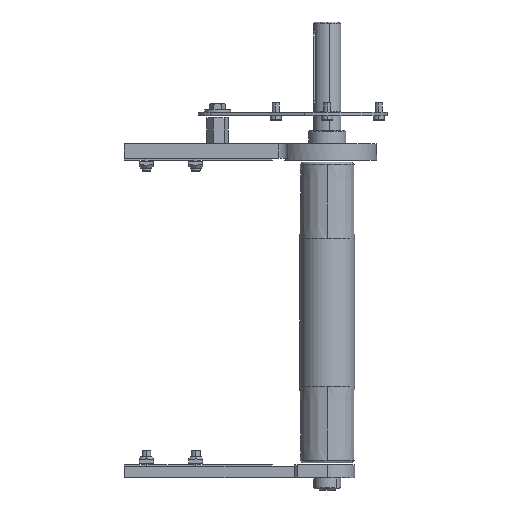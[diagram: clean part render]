
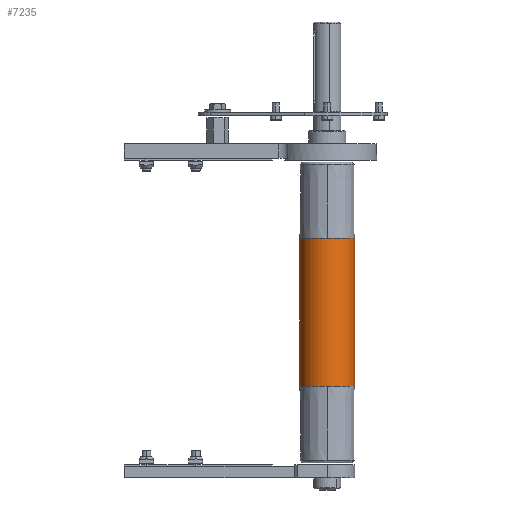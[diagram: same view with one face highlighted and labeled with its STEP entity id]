
A CAD part, front view. The second image highlights one B-rep face of the part: STEP entity #7235.
In plain terms, the highlighted cylindrical face has radius 25 mm (diameter 50 mm), a partial arc.
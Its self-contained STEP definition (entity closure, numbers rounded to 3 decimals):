
#152 = AXIS2_PLACEMENT_3D ( 'NONE', #11814, #11450, #9358 ) ;
#160 = VERTEX_POINT ( 'NONE', #3217 ) ;
#262 = CARTESIAN_POINT ( 'NONE',  ( 0., 0., -67.5 ) ) ;
#689 = CIRCLE ( 'NONE', #1233, 25. ) ;
#896 = CARTESIAN_POINT ( 'NONE',  ( -25., 0., 135. ) ) ;
#972 = VERTEX_POINT ( 'NONE', #11351 ) ;
#1027 = DIRECTION ( 'NONE',  ( 1., 0., 0. ) ) ;
#1233 = AXIS2_PLACEMENT_3D ( 'NONE', #11610, #2497, #8102 ) ;
#1330 = CARTESIAN_POINT ( 'NONE',  ( 0., -25., -67.5 ) ) ;
#1473 = DIRECTION ( 'NONE',  ( 0., 1., 0. ) ) ;
#1769 = DIRECTION ( 'NONE',  ( 0., 0., -1. ) ) ;
#1934 = EDGE_CURVE ( 'NONE', #12120, #972, #2195, .T. ) ;
#2043 = ORIENTED_EDGE ( 'NONE', *, *, #4513, .F. ) ;
#2088 = EDGE_CURVE ( 'NONE', #12120, #5658, #689, .T. ) ;
#2195 = LINE ( 'NONE', #10228, #9530 ) ;
#2421 = ORIENTED_EDGE ( 'NONE', *, *, #2493, .F. ) ;
#2493 = EDGE_CURVE ( 'NONE', #4411, #160, #9801, .T. ) ;
#2497 = DIRECTION ( 'NONE',  ( 0., 0., -1. ) ) ;
#2890 = AXIS2_PLACEMENT_3D ( 'NONE', #7106, #11076, #7065 ) ;
#3217 = CARTESIAN_POINT ( 'NONE',  ( -25., 0., -67.5 ) ) ;
#3286 = CYLINDRICAL_SURFACE ( 'NONE', #7570, 25. ) ;
#3506 = CARTESIAN_POINT ( 'NONE',  ( -25., 0., 67.5 ) ) ;
#3968 = VECTOR ( 'NONE', #9459, 1000. ) ;
#4038 = CIRCLE ( 'NONE', #152, 25. ) ;
#4411 = VERTEX_POINT ( 'NONE', #1330 ) ;
#4509 = VERTEX_POINT ( 'NONE', #3506 ) ;
#4513 = EDGE_CURVE ( 'NONE', #972, #4411, #4038, .T. ) ;
#5658 = VERTEX_POINT ( 'NONE', #8751 ) ;
#5740 = CARTESIAN_POINT ( 'NONE',  ( 25., 0., 67.5 ) ) ;
#5753 = EDGE_LOOP ( 'NONE', ( #10805, #9605, #6646, #2421, #2043, #6607 ) ) ;
#6607 = ORIENTED_EDGE ( 'NONE', *, *, #1934, .F. ) ;
#6646 = ORIENTED_EDGE ( 'NONE', *, *, #12257, .T. ) ;
#6752 = DIRECTION ( 'NONE',  ( 0., 0., -1. ) ) ;
#7065 = DIRECTION ( 'NONE',  ( 0., 1., 0. ) ) ;
#7106 = CARTESIAN_POINT ( 'NONE',  ( 0., 0., 67.5 ) ) ;
#7235 = ADVANCED_FACE ( 'NONE', ( #8968 ), #3286, .T. ) ;
#7570 = AXIS2_PLACEMENT_3D ( 'NONE', #9582, #6752, #1027 ) ;
#8005 = AXIS2_PLACEMENT_3D ( 'NONE', #262, #1769, #1473 ) ;
#8102 = DIRECTION ( 'NONE',  ( 0., 1., 0. ) ) ;
#8751 = CARTESIAN_POINT ( 'NONE',  ( 0., -25., 67.5 ) ) ;
#8968 = FACE_OUTER_BOUND ( 'NONE', #5753, .T. ) ;
#9179 = CIRCLE ( 'NONE', #2890, 25. ) ;
#9358 = DIRECTION ( 'NONE',  ( 0., 1., 0. ) ) ;
#9459 = DIRECTION ( 'NONE',  ( 0., 0., -1. ) ) ;
#9530 = VECTOR ( 'NONE', #11054, 1000. ) ;
#9582 = CARTESIAN_POINT ( 'NONE',  ( 0., 0., 135. ) ) ;
#9605 = ORIENTED_EDGE ( 'NONE', *, *, #10541, .T. ) ;
#9801 = CIRCLE ( 'NONE', #8005, 25. ) ;
#10228 = CARTESIAN_POINT ( 'NONE',  ( 25., 0., 135. ) ) ;
#10541 = EDGE_CURVE ( 'NONE', #5658, #4509, #9179, .T. ) ;
#10805 = ORIENTED_EDGE ( 'NONE', *, *, #2088, .T. ) ;
#11054 = DIRECTION ( 'NONE',  ( 0., 0., -1. ) ) ;
#11076 = DIRECTION ( 'NONE',  ( 0., 0., -1. ) ) ;
#11351 = CARTESIAN_POINT ( 'NONE',  ( 25., 0., -67.5 ) ) ;
#11450 = DIRECTION ( 'NONE',  ( 0., 0., -1. ) ) ;
#11610 = CARTESIAN_POINT ( 'NONE',  ( 0., 0., 67.5 ) ) ;
#11814 = CARTESIAN_POINT ( 'NONE',  ( 0., 0., -67.5 ) ) ;
#11842 = LINE ( 'NONE', #896, #3968 ) ;
#12120 = VERTEX_POINT ( 'NONE', #5740 ) ;
#12257 = EDGE_CURVE ( 'NONE', #4509, #160, #11842, .T. ) ;
